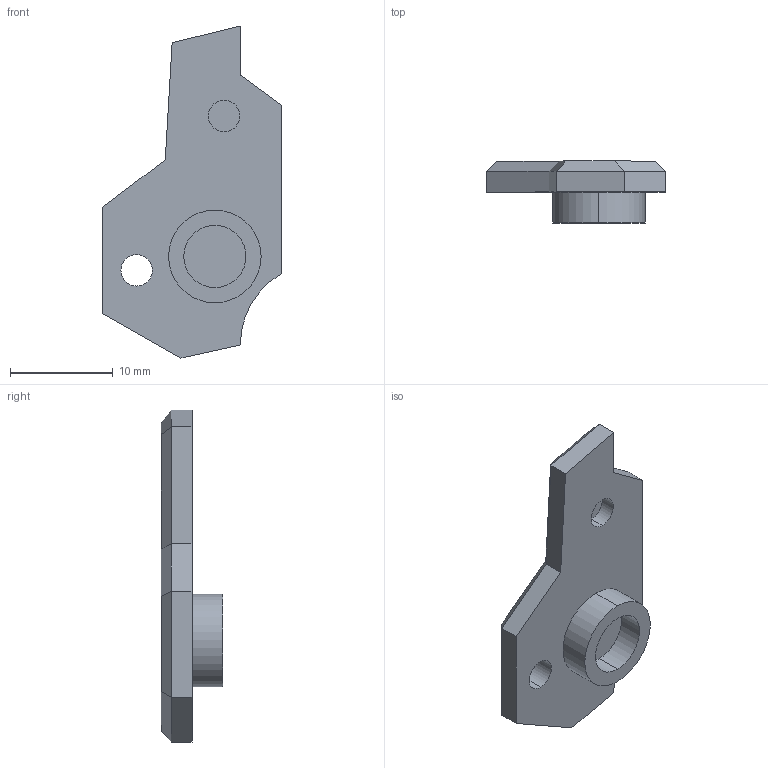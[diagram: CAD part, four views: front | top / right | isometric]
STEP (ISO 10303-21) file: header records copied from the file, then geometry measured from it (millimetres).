
FILE_DESCRIPTION (( 'STEP AP214' ), '1' );
FILE_NAME ('cnc裔啣酘.STEP', '2026-04-12T11:02:01', ( '' ), ( '' ), 'SwSTEP 2.0', 'SolidWorks 2024', '' );
FILE_SCHEMA (( 'AUTOMOTIVE_DESIGN' ));
Length unit declared in the file: millimetre
Products named in the file (1): cnc盖板左
Bounding box: 17.39 x 6 x 32.27 mm (x, y, z)
Volume: 1208.1 mm3; surface area: 1140.9 mm2
Topology: 1 solids, 1 shells, 33 faces, 74 edges, 46 vertices
Faces by surface type: plane 23, cylinder 9, cone 1
Entity records: 936 total; most frequent: CARTESIAN_POINT 160, DIRECTION 159, ORIENTED_EDGE 148, EDGE_CURVE 74, AXIS2_PLACEMENT_3D 53, VECTOR 53, LINE 53, VERTEX_POINT 46
